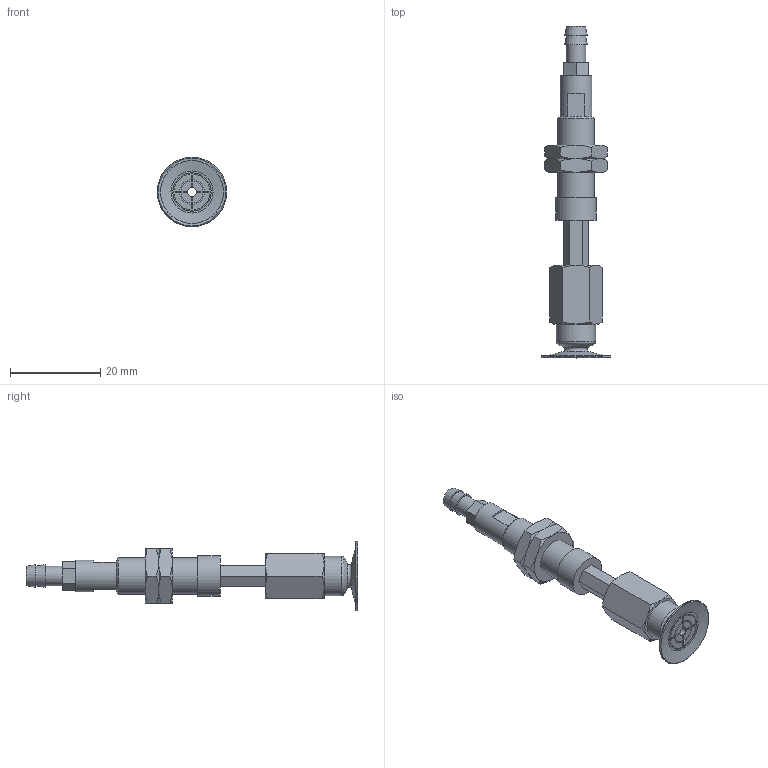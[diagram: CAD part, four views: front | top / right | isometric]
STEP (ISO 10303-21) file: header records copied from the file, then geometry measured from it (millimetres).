
FILE_DESCRIPTION(('STEP AP203'),'1');
FILE_NAME('-T.stp','2025-08-21T08:03:42',(' '),(' '),'Spatial InterOp 3D',' ',' ');
FILE_SCHEMA(('CONFIG_CONTROL_DESIGN'));
Length unit declared in the file: millimetre
Products named in the file (7): BNABPATH-15B-10-※-T; ADAPTER; NAPATH-10A-10--M; NAPATH-10A-10--F; Nut-10A-S; CONNECTOR-10A-3-T-PA; BPAG-15B-※
Assembly tree (7 placements, depth 2):
  BNABPATH-15B-10-※-T
    ADAPTER
    NAPATH-10A-10--M
    NAPATH-10A-10--F
    Nut-10A-S  x2
    CONNECTOR-10A-3-T-PA
    BPAG-15B-※
Bounding box: 15.4 x 73.5 x 15.4 mm (x, y, z)
Volume: 3696.6 mm3; surface area: 4771.9 mm2
Topology: 7 solids, 7 shells, 183 faces, 410 edges, 252 vertices
Faces by surface type: plane 85, cone 58, cylinder 30, torus 10
Full cylindrical faces by diameter (mm): 2 x3, 3 x1, 4 x2, 4.134 x1, 4.3 x1, 5 x1, 6 x2, 7 x1, 7.188 x2, 8 x1, 8.5 x1, 8.7 x1, 9 x1
Entity records: 4746 total; most frequent: CARTESIAN_POINT 1059, DIRECTION 696, ORIENTED_EDGE 622, EDGE_CURVE 311, AXIS2_PLACEMENT_3D 280, EDGE_LOOP 222, VERTEX_POINT 213, FACE_OUTER_BOUND 187
